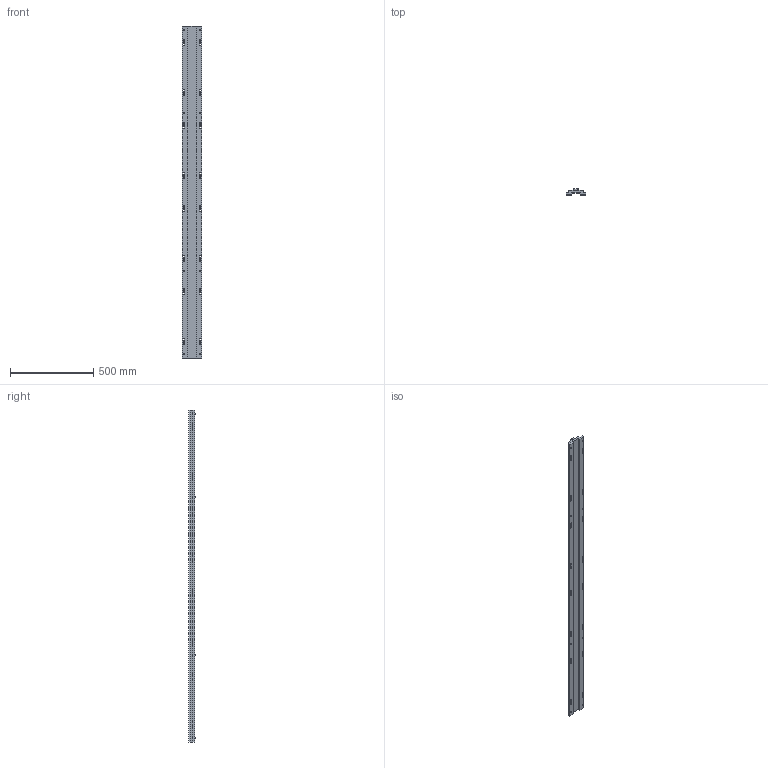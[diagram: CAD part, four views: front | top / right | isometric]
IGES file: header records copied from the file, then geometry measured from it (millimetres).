
Start section:  PTC IGES file: EOB04.igs
Global section: file name: EOB04.igs; native system: Pro/ENGINEER by Parametric Technology Corporation; preprocessor: 2006460; author: Owner; organization: Unknown; date: 20141216.114823; units: millimetre
Bounding box: 120 x 39.4 x 2000 mm (x, y, z)
Surface area: 731377.5 mm2 (no closed solid volume)
Topology: 0 solids, 0 shells, 214 faces, 1384 edges, 1528 vertices
Faces by surface type: revolution 112, bspline 102
